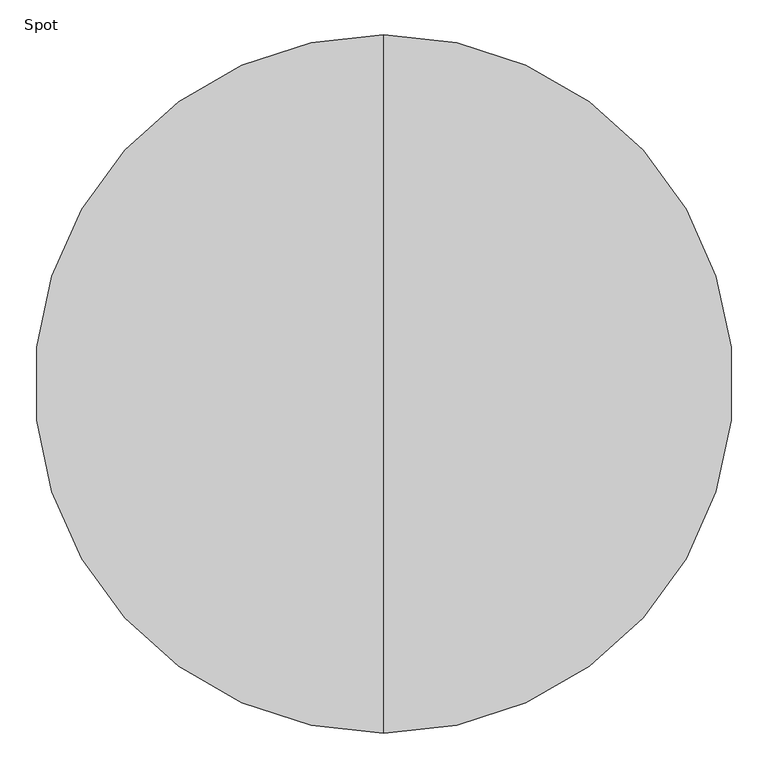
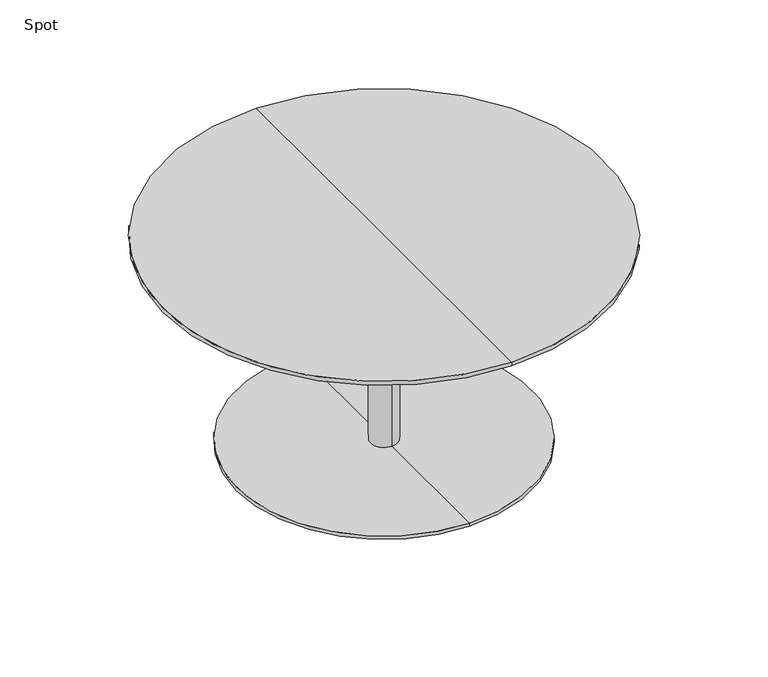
"""IFC4 building model written with IfcOpenShell, lengths in millimetres: furniture geometry, Spot : ø105x52."""

from ifc_helpers import new_model, si_unit, frame, origin, place, context, project, spatial, polyline, circle_curve, source, transform, mapped, element, save
from ifc_brep_helpers import plane_surface, cylinder_surface, revolved_surface, advanced_brep


def spot_07b8c2ec(model_context):
    return source(origin(), model_context, "Body", "AdvancedBrep", [
        advanced_brep(
        [(0.0, -525.0, 520.0), (0.0, 525.0, 520.0), (0.0, 0.0, 520.0), (0.0, 525.0, 510.25), (0.0, -525.0, 510.25), (0.0, 0.0, 498.0), (0.0, -479.2823776, 498.0), (0.0, 479.2823776, 498.0)],
        [
            (0, 1, circle_curve(frame((0.0, 0.0, 520.0), z_axis=(0.0, 0.0, 1.0), x_axis=(0.0, -1.0, 0.0)), 525.0)),
            (1, 2),
            (2, 0),
            (3, 4, circle_curve(frame((0.0, 0.0, 510.25), z_axis=(0.0, 0.0, 1.0), x_axis=(0.0, -1.0, 0.0)), 525.0)),
            (4, 0),
            (0, 1, circle_curve(frame((0.0, 0.0, 520.0), z_axis=(0.0, 0.0, -1.0), x_axis=(0.0, -1.0, 0.0)), 525.0)),
            (1, 3),
            (5, 6),
            (6, 7, circle_curve(frame((0.0, 0.0, 498.0), z_axis=(0.0, 0.0, -1.0), x_axis=(0.0, -1.0, 0.0)), 479.2823776)),
            (7, 5),
            (7, 6, circle_curve(frame((0.0, 0.0, 498.0), z_axis=(0.0, 0.0, -1.0), x_axis=(0.0, -1.0, 0.0)), 479.2823776)),
            (4, 3, circle_curve(frame((0.0, 0.0, 510.25), z_axis=(0.0, 0.0, 1.0), x_axis=(0.0, -1.0, 0.0)), 525.0)),
            (6, 4),
            (3, 7),
        ],
        [
            plane_surface(frame((0.0, 0.0, 520.0), z_axis=(0.0, 0.0, 1.0), x_axis=(0.0, -1.0, 0.0))),
            cylinder_surface(frame((0.0, 0.0, 600.0), z_axis=(0.0, 0.0, -1.0), x_axis=(0.0, -1.0, 0.0)), 525.0),
            plane_surface(frame((0.0, 0.0, 498.0), z_axis=(0.0, 0.0, -1.0), x_axis=(0.0, -1.0, 0.0))),
            revolved_surface(polyline([(0.0, -525.0, 510.25), (0.0, -479.2823776, 498.0)]), (0.0, 0.0, 600.0), (0.0, 0.0, -1.0)),
        ],
        [
            (0, [[1, 2, 3]]),
            (1, [[4, 5, 6, 7]]),
            (2, [[8, 9, 10]]),
            (2, [[-10, 11, -8]]),
            (0, [[-6, -3, -2]]),
            (1, [[12, -7, -1, -5]]),
            (3, [[-9, 13, -4, 14]]),
            (3, [[-11, -14, -12, -13]]),
        ],
    ),
        advanced_brep(
        [(0.0, 32.0, 10.0), (0.0, -32.0, 10.0), (0.0, -32.0, 467.406916), (0.0, 32.0, 467.406916), (0.0, 350.0, 10.0), (0.0, -350.0, 10.0), (0.0, 350.0, 2.0), (0.0, -350.0, 2.0), (0.0, 0.0, 2.0), (0.0, 150.0, 498.0), (0.0, -150.0, 498.0), (0.0, 0.0, 498.0), (0.0, 150.0, 486.7213673), (0.0, -150.0, 486.7213673)],
        [
            (0, 1, circle_curve(frame((0.0, 0.0, 10.0), z_axis=(0.0, 0.0, 1.0), x_axis=(0.0, -1.0, 0.0)), 32.0)),
            (1, 2),
            (2, 3, circle_curve(frame((0.0, 0.0, 467.406916), z_axis=(0.0, 0.0, -1.0), x_axis=(0.0, -1.0, 0.0)), 32.0)),
            (3, 0),
            (1, 0, circle_curve(frame((0.0, 0.0, 10.0), z_axis=(0.0, 0.0, 1.0), x_axis=(0.0, -1.0, 0.0)), 32.0)),
            (3, 2, circle_curve(frame((0.0, 0.0, 467.406916), z_axis=(0.0, 0.0, -1.0), x_axis=(0.0, -1.0, 0.0)), 32.0)),
            (4, 5, circle_curve(frame((0.0, 0.0, 10.0), z_axis=(0.0, 0.0, 1.0), x_axis=(0.0, -1.0, 0.0)), 350.0)),
            (5, 1),
            (0, 4),
            (5, 4, circle_curve(frame((0.0, 0.0, 10.0), z_axis=(0.0, 0.0, 1.0), x_axis=(0.0, -1.0, 0.0)), 350.0)),
            (6, 7, circle_curve(frame((0.0, 0.0, 2.0), z_axis=(0.0, 0.0, 1.0), x_axis=(0.0, -1.0, 0.0)), 350.0)),
            (7, 5),
            (4, 6),
            (7, 6, circle_curve(frame((0.0, 0.0, 2.0), z_axis=(0.0, 0.0, 1.0), x_axis=(0.0, -1.0, 0.0)), 350.0)),
            (8, 7),
            (6, 8),
            (9, 10, circle_curve(frame((0.0, 0.0, 498.0), z_axis=(0.0, 0.0, 1.0), x_axis=(0.0, -1.0, 0.0)), 150.0)),
            (10, 11),
            (11, 9),
            (10, 9, circle_curve(frame((0.0, 0.0, 498.0), z_axis=(0.0, 0.0, 1.0), x_axis=(0.0, -1.0, 0.0)), 150.0)),
            (12, 13, circle_curve(frame((0.0, 0.0, 486.7213673), z_axis=(0.0, 0.0, 1.0), x_axis=(0.0, -1.0, 0.0)), 150.0)),
            (13, 10),
            (9, 12),
            (13, 12, circle_curve(frame((0.0, 0.0, 486.7213673), z_axis=(0.0, 0.0, 1.0), x_axis=(0.0, -1.0, 0.0)), 150.0)),
            (2, 13),
            (12, 3),
        ],
        [
            cylinder_surface(frame((0.0, 0.0, 860.0), z_axis=(0.0, 0.0, -1.0), x_axis=(0.0, -1.0, 0.0)), 32.0),
            plane_surface(frame((0.0, 0.0, 10.0), z_axis=(0.0, 0.0, 1.0), x_axis=(0.0, -1.0, 0.0))),
            cylinder_surface(frame((0.0, 0.0, 860.0), z_axis=(0.0, 0.0, -1.0), x_axis=(0.0, -1.0, 0.0)), 350.0),
            plane_surface(frame((0.0, 0.0, 2.0), z_axis=(0.0, 0.0, -1.0), x_axis=(0.0, -1.0, 0.0))),
            plane_surface(frame((0.0, 0.0, 498.0), z_axis=(0.0, 0.0, 1.0), x_axis=(0.0, -1.0, 0.0))),
            cylinder_surface(frame((0.0, 0.0, 860.0), z_axis=(0.0, 0.0, -1.0), x_axis=(0.0, -1.0, 0.0)), 150.0),
            revolved_surface(polyline([(0.0, -150.0, 486.7213673), (0.0, -32.0, 467.406916)]), (0.0, 0.0, 860.0), (0.0, 0.0, -1.0)),
        ],
        [
            (0, [[1, 2, 3, 4]]),
            (0, [[5, -4, 6, -2]]),
            (1, [[7, 8, -1, 9]]),
            (1, [[10, -9, -5, -8]]),
            (2, [[11, 12, -7, 13]]),
            (2, [[14, -13, -10, -12]]),
            (3, [[15, -11, 16]]),
            (3, [[-16, -14, -15]]),
            (4, [[17, 18, 19]]),
            (4, [[20, -19, -18]]),
            (5, [[21, 22, -17, 23]]),
            (5, [[24, -23, -20, -22]]),
            (6, [[-3, 25, -21, 26]]),
            (6, [[-6, -26, -24, -25]]),
        ],
    ),
    ])


if __name__ == "__main__":
    model = new_model("IFC4")
    model_context = context("Model", 3, world=origin())
    ifc_project = project(units=[si_unit("LENGTHUNIT", "METRE", prefix="MILLI")], contexts=[model_context])
    site = spatial("IfcSite", under=ifc_project)
    building = spatial("IfcBuilding", under=site)
    placement = place(None, origin())
    spot_shape = spot_07b8c2ec(model_context)
    element("IfcFurniture", 1, ObjectType="Spot : ø105x52", at=placement, inside=building, context=model_context, shape_type="MappedRepresentation", body=[
        mapped(spot_shape, transform((0.0, 0.0, 0.0), x_axis=(1.0, 0.0, 0.0), y_axis=(0.0, 1.0, 0.0), z_axis=(0.0, 0.0, 1.0))),
    ])
    save(model, "model.ifc")
